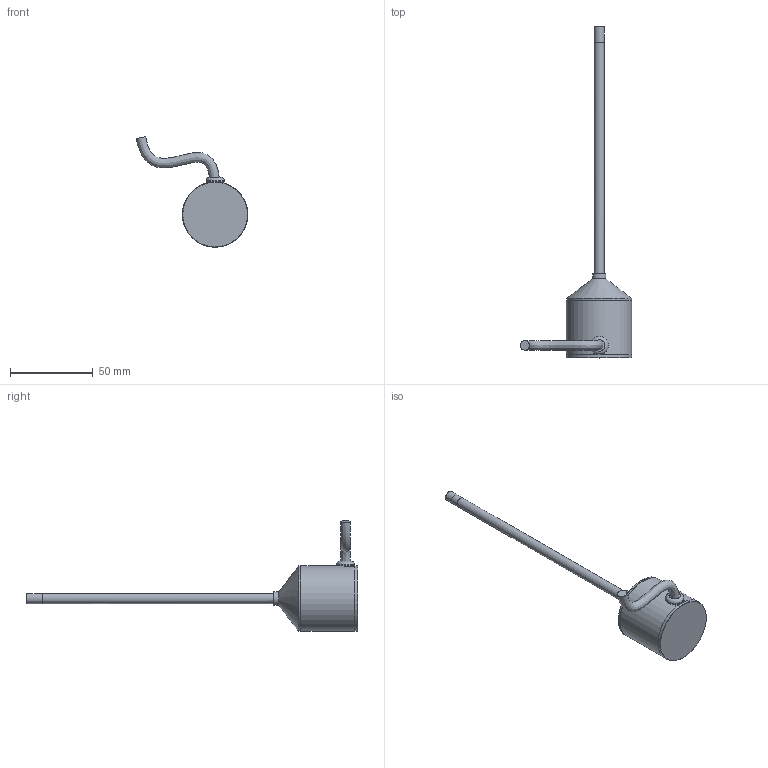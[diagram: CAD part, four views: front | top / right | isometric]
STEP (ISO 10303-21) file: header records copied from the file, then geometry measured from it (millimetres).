
FILE_DESCRIPTION (( 'STEP AP203' ), '1' );
FILE_NAME ('Zusammenbau_UV_Probe_V5_defeature_150mm_integrating.STEP', '2026-09-02T09:08:18', ( '' ), ( '' ), 'SwSTEP 2.0', 'SolidWorks 2025', '' );
FILE_SCHEMA (( 'CONFIG_CONTROL_DESIGN' ));
Length unit declared in the file: millimetre
Products named in the file (1): Zusammenbau_UV_Probe_V5_defeature_150mm_integrating
Bounding box: 67.6 x 201 x 66.94 mm (x, y, z)
Volume: 57550.1 mm3; surface area: 23277.9 mm2
Topology: 6 solids, 6 shells, 81 faces, 152 edges, 99 vertices
Faces by surface type: cylinder 33, plane 33, torus 7, cone 6, bspline 1, sphere 1
Full cylindrical faces by diameter (mm): 0.6 x4, 5 x3, 6 x3, 7 x1, 8 x2, 9.9 x1, 11 x2, 34.9 x1, 37 x1, 39.6 x4
Entity records: 2176 total; most frequent: CARTESIAN_POINT 599, DIRECTION 339, ORIENTED_EDGE 226, AXIS2_PLACEMENT_3D 158, EDGE_LOOP 130, EDGE_CURVE 113, FACE_OUTER_BOUND 110, VERTEX_POINT 93
